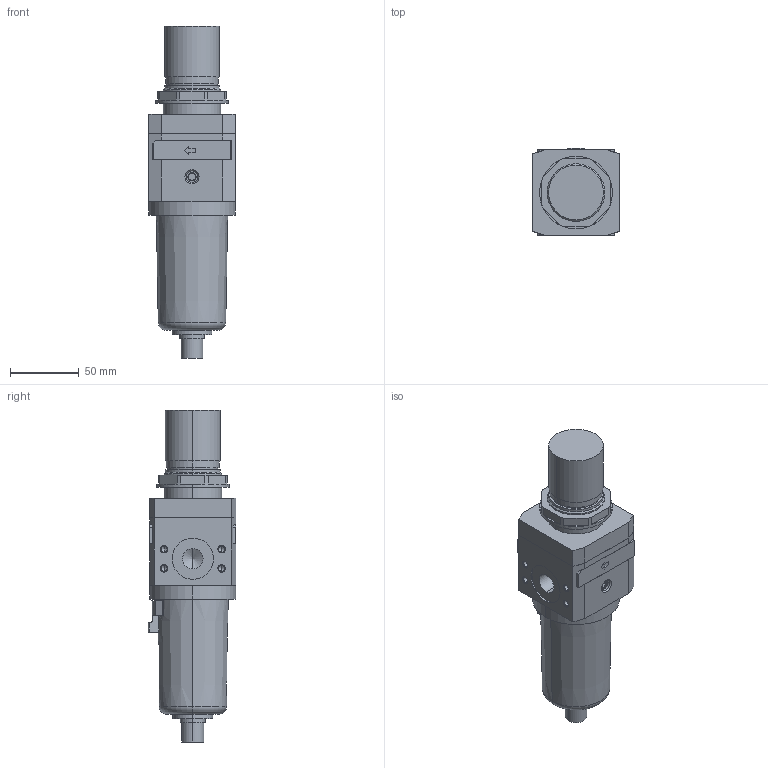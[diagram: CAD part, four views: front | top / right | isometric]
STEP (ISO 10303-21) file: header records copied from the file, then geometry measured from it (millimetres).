
FILE_DESCRIPTION((''),'2;1');
FILE_NAME('I:\DOC-EDP\Lib-3d\FRL\17304A_.stp','2003-06-16T14:58:40',('maffial1'),(''),'Autodesk Inventor 7','Autodesk Inventor 7','');
FILE_SCHEMA(('AUTOMOTIVE_DESIGN { 1 0 10303 214 1 1 1 1 }'));
Length unit declared in the file: millimetre
Products named in the file (4): 17304A_; 17304A_(1); RS_1702_12; RK_1701_020
Assembly tree (3 placements, depth 2):
  17304A_
    17304A_(1)
    RS_1702_12
    RK_1701_020
Bounding box: 63 x 64.18 x 242.2 mm (x, y, z)
Volume: 531639.7 mm3; surface area: 64018.5 mm2
Topology: 3 solids, 5 shells, 250 faces, 597 edges, 365 vertices
Faces by surface type: bspline 96, plane 95, cylinder 38, cone 15, torus 6
Entity records: 8066 total; most frequent: CARTESIAN_POINT 2515, ORIENTED_EDGE 1146, DIRECTION 1086, EDGE_CURVE 573, VERTEX_POINT 365, AXIS2_PLACEMENT_3D 364, VECTOR 358, LINE 358
